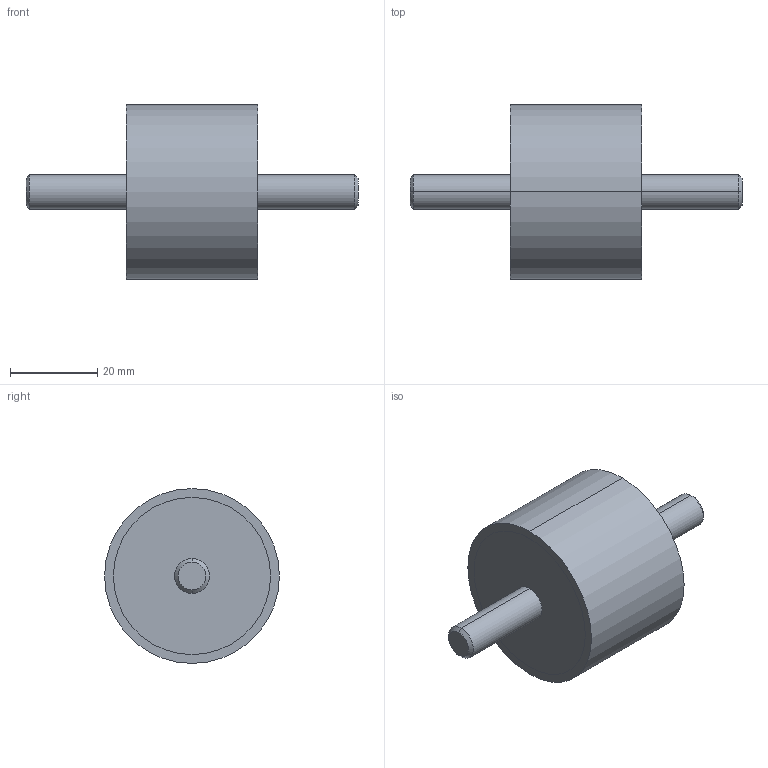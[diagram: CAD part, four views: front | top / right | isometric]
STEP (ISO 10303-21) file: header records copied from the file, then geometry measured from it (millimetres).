
FILE_DESCRIPTION (( 'STEP AP214' ), '1' );
FILE_NAME ('351-40-30-M8-SS-70.step', '2025-07-23T09:45:36', ( '' ), ( '' ), 'SwSTEP 2.0', 'SolidWorks 2022', '' );
FILE_SCHEMA (( 'AUTOMOTIVE_DESIGN' ));
Length unit declared in the file: millimetre
Products named in the file (1): 351-40-30-M8-SS-70
Bounding box: 76 x 40 x 40 mm (x, y, z)
Volume: 39977 mm3; surface area: 7416.8 mm2
Topology: 1 solids, 1 shells, 20 faces, 38 edges, 24 vertices
Faces by surface type: cylinder 10, plane 6, cone 4
Entity records: 636 total; most frequent: DIRECTION 104, CARTESIAN_POINT 83, ORIENTED_EDGE 76, AXIS2_PLACEMENT_3D 45, EDGE_CURVE 38, CIRCLE 24, EDGE_LOOP 24, VERTEX_POINT 24
